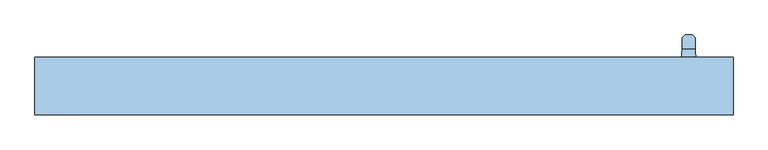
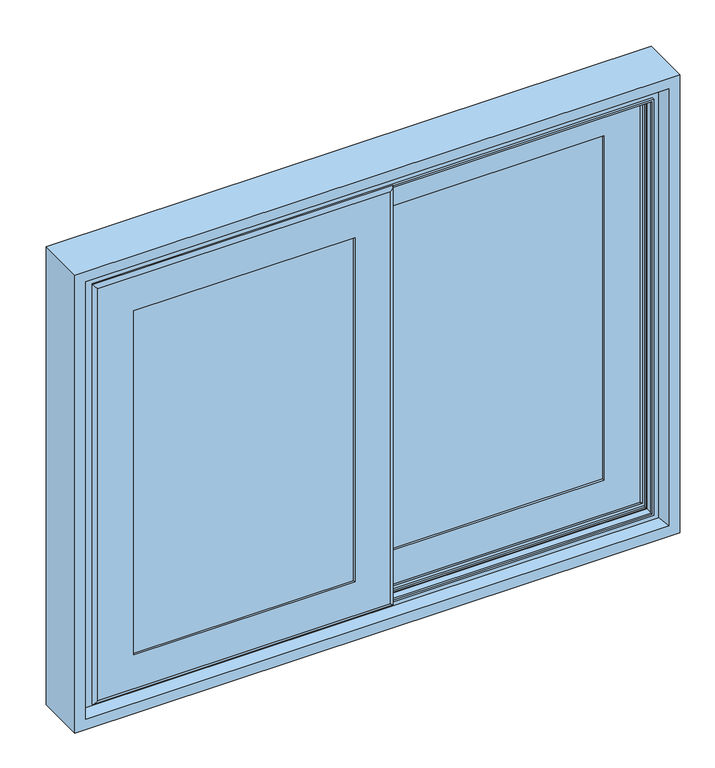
"""IFC4 building model written with IfcOpenShell, lengths in millimetres: window geometry, Windows_Opening-Slide_Exlabesa_ELEVABLE-GR-Balcony-2-Panel-Sliding : ELEVABLE_GR_2000x2000 mm Slide."""

from ifc_helpers import new_model, si_unit, point, frame, frame_2d, origin, place, context, project, spatial, polyline, circle_curve, ellipse_curve, trimmed, segment, composite_curve, outline, extrude, source, transform, mapped, element, save
from ifc_brep_helpers import plane_surface, cylinder_surface, revolved_surface, advanced_brep


def window_30185021(model_context):
    return source(origin(), model_context, "Body", "SolidModel", [
        extrude(outline(composite_curve([segment(polyline([(45.9189448, -432.2626103), (33.4565194, -432.2626103), (33.4565194, -386.2344537), (-52.7425806, -386.2344537)]), True, "CONTINUOUS"), segment(trimmed(circle_curve(frame_2d((147.2565194, -385.6344537)), 200.0), [point((-52.7425806, -386.2344537))], [point((-45.9189448, -333.8344537))], False, "CARTESIAN"), True, "CONTINUOUS"), segment(polyline([(-45.9189448, -333.8344537), (-33.4565194, -333.8344537), (-33.4565194, -379.8626103), (52.7425806, -379.8626103)]), True, "CONTINUOUS"), segment(trimmed(circle_curve(frame_2d((-147.2565194, -380.4626103)), 200.0), [point((52.7425806, -379.8626103))], [point((45.9189448, -432.2626103))], False, "CARTESIAN"), True, "CONTINUOUS")], self_intersect=False)), frame((0.0, 0.0, 60.0), z_axis=(0.0, 0.0, 1.0), x_axis=(1.0, 0.0, 0.0)), (0.0, 0.0, 1.0), 1080.0),
        advanced_brep(
        [(-13.56, -333.798532, 1117.0), (-13.56, -333.798532, 83.0), (-13.56, -341.048532, 83.0), (-13.56, -341.048532, 1117.0), (667.0, -341.048532, 1117.0), (667.0, -341.048532, 83.0), (9.94, -341.048532, 1093.5), (643.5, -341.048532, 1093.5), (643.5, -341.048532, 106.5), (9.94, -341.048532, 106.5), (667.0, -333.798532, 83.0), (699.4076311, -333.798532, 1149.4076311), (-45.9676311, -333.798532, 1149.4076311), (-45.9676311, -333.798532, 50.5923689), (699.4076311, -333.798532, 50.5923689), (667.0, -333.798532, 1117.0), (-36.4282391, -326.798532, 1139.8682391), (689.8682391, -326.798532, 1139.8682391), (689.8682391, -326.798532, 60.1317609), (-36.4282391, -326.798532, 60.1317609), (600.7, -326.798532, 1050.7), (52.74, -326.798532, 1050.7), (52.74, -326.798532, 149.3), (600.7, -326.798532, 149.3), (600.7, -347.798532, 149.3), (600.7, -347.798532, 1050.7), (52.74, -347.798532, 149.3), (52.74, -347.798532, 1050.7), (608.9, -347.798532, 1058.9), (44.54, -347.798532, 1058.9), (44.54, -347.798532, 141.1), (608.9, -347.798532, 141.1), (44.54, -344.798532, 1058.9), (44.54, -344.798532, 141.1), (608.9, -344.798532, 141.1), (622.7, -344.798532, 1072.7), (30.74, -344.798532, 1072.7), (30.74, -344.798532, 127.3), (622.7, -344.798532, 127.3), (608.9, -344.798532, 1058.9), (30.74, -348.898532, 1072.7), (30.74, -348.898532, 127.3), (622.7, -348.898532, 127.3), (627.2, -348.898532, 1077.2), (26.24, -348.898532, 1077.2), (26.24, -348.898532, 122.8), (627.2, -348.898532, 122.8), (622.7, -348.898532, 1072.7), (26.24, -372.298532, 1077.2), (26.24, -372.298532, 122.8), (627.2, -372.298532, 122.8), (627.2, -372.298532, 1077.2), (600.7, -372.298532, 1050.7), (52.74, -372.298532, 1050.7), (52.74, -372.298532, 149.3), (600.7, -372.298532, 149.3), (52.74, -377.298532, 1050.7), (52.74, -377.298532, 149.3), (600.7, -377.298532, 149.3), (689.8682391, -377.298532, 1139.8682391), (-36.4282391, -377.298532, 1139.8682391), (-36.4282391, -377.298532, 60.1317609), (689.8682391, -377.298532, 60.1317609), (600.7, -377.298532, 1050.7), (-45.9676311, -370.298532, 1149.4076311), (-45.9676311, -370.298532, 50.5923689), (699.4076311, -370.298532, 50.5923689), (699.4076311, -370.298532, 1149.4076311), (667.0, -370.298532, 1117.0), (-13.56, -370.298532, 1117.0), (-13.56, -370.298532, 83.0), (667.0, -370.298532, 83.0), (667.0, -363.048532, 83.0), (667.0, -363.048532, 1117.0), (-13.56, -363.048532, 83.0), (-13.56, -363.048532, 1117.0), (643.5, -363.048532, 1093.5), (9.94, -363.048532, 1093.5), (9.94, -363.048532, 106.5), (643.5, -363.048532, 106.5)],
        [
            (0, 1),
            (1, 2),
            (2, 3),
            (3, 0),
            (4, 3),
            (2, 5),
            (5, 4),
            (6, 7),
            (7, 8),
            (8, 9),
            (9, 6),
            (1, 10),
            (10, 5),
            (11, 12),
            (12, 13),
            (13, 14),
            (14, 11),
            (0, 15),
            (15, 10),
            (15, 4),
            (16, 17),
            (17, 18),
            (18, 19),
            (19, 16),
            (20, 21),
            (21, 22),
            (22, 23),
            (23, 20),
            (19, 13, ellipse_curve(frame((-36.4282391, -336.798532, 60.1317609), z_axis=(-0.7071067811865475, 0.0, 0.7071067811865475), x_axis=(0.7071067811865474, 0.0, 0.7071067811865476)), 14.1421356, 10.0)),
            (12, 16, ellipse_curve(frame((-36.4282391, -336.798532, 1139.8682391), z_axis=(-0.7071067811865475, 0.0, -0.7071067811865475), x_axis=(-0.7071067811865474, 0.0, 0.7071067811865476)), 14.1421356, 10.0)),
            (18, 14, ellipse_curve(frame((689.8682391, -336.798532, 60.1317609), z_axis=(-0.7071067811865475, 0.0, -0.7071067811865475), x_axis=(-0.7071067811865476, 0.0, 0.7071067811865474)), 14.1421356, 10.0)),
            (17, 11, ellipse_curve(frame((689.8682391, -336.798532, 1139.8682391), z_axis=(0.7071067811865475, 0.0, -0.7071067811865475), x_axis=(-0.7071067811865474, 0.0, -0.7071067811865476)), 14.1421356, 10.0)),
            (24, 25),
            (25, 20),
            (23, 24),
            (26, 24),
            (22, 26),
            (27, 26),
            (21, 27),
            (28, 29),
            (29, 30),
            (30, 31),
            (31, 28),
            (27, 25),
            (32, 33),
            (33, 30),
            (29, 32),
            (33, 34),
            (34, 31),
            (35, 36),
            (36, 37),
            (37, 38),
            (38, 35),
            (32, 39),
            (39, 34),
            (40, 41),
            (41, 37),
            (36, 40),
            (41, 42),
            (42, 38),
            (43, 44),
            (44, 45),
            (45, 46),
            (46, 43),
            (40, 47),
            (47, 42),
            (48, 49),
            (49, 45),
            (44, 48),
            (49, 50),
            (50, 46),
            (48, 51),
            (51, 50),
            (52, 53),
            (53, 54),
            (54, 55),
            (55, 52),
            (56, 57),
            (57, 54),
            (53, 56),
            (57, 58),
            (58, 55),
            (59, 60),
            (60, 61),
            (61, 62),
            (62, 59),
            (56, 63),
            (63, 58),
            (64, 65),
            (65, 61, ellipse_curve(frame((-36.4282391, -367.298532, 60.1317609), z_axis=(-0.7071067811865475, 0.0, 0.7071067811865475), x_axis=(0.7071067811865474, 0.0, 0.7071067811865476)), 14.1421356, 10.0)),
            (60, 64, ellipse_curve(frame((-36.4282391, -367.298532, 1139.8682391), z_axis=(-0.7071067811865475, 0.0, -0.7071067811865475), x_axis=(-0.7071067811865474, 0.0, 0.7071067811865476)), 14.1421356, 10.0)),
            (65, 66),
            (66, 62, ellipse_curve(frame((689.8682391, -367.298532, 60.1317609), z_axis=(-0.7071067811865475, 0.0, -0.7071067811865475), x_axis=(-0.7071067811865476, 0.0, 0.7071067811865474)), 14.1421356, 10.0)),
            (64, 67),
            (67, 66),
            (68, 69),
            (69, 70),
            (70, 71),
            (71, 68),
            (39, 28),
            (47, 35),
            (51, 43),
            (63, 52),
            (67, 59, ellipse_curve(frame((689.8682391, -367.298532, 1139.8682391), z_axis=(0.7071067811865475, 0.0, -0.7071067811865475), x_axis=(-0.7071067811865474, 0.0, -0.7071067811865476)), 14.1421356, 10.0)),
            (72, 73),
            (73, 68),
            (71, 72),
            (74, 72),
            (70, 74),
            (75, 74),
            (69, 75),
            (75, 73),
            (76, 77),
            (77, 78),
            (78, 79),
            (79, 76),
            (9, 78),
            (77, 6),
            (8, 79),
            (7, 76),
        ],
        [
            plane_surface(frame((-13.56, -341.048532, 1117.0), z_axis=(-1.0, 0.0, 0.0), x_axis=(0.0, 0.0, -1.0))),
            plane_surface(frame((643.5, -341.048532, 106.5), z_axis=(0.0, -1.0, 0.0), x_axis=(0.0, 0.0, 1.0))),
            plane_surface(frame((-13.56, -341.048532, 83.0), z_axis=(0.0, 0.0, -1.0), x_axis=(1.0, 0.0, 0.0))),
            plane_surface(frame((667.0, -333.798532, 83.0), z_axis=(0.0, -1.0, 0.0), x_axis=(0.0, 0.0, 1.0))),
            plane_surface(frame((667.0, -341.048532, 83.0), z_axis=(1.0, 0.0, 0.0), x_axis=(0.0, 0.0, 1.0))),
            plane_surface(frame((689.8682391, -326.798532, 60.1317609), z_axis=(0.0, 1.0, 0.0), x_axis=(0.0, 0.0, 1.0))),
            cylinder_surface(frame((-36.4282391, -336.798532, 1200.0), z_axis=(0.0, 0.0, 1.0), x_axis=(1.0, 0.0, 0.0)), 10.0),
            cylinder_surface(frame((-96.56, -336.798532, 60.1317609), z_axis=(-1.0, 0.0, 0.0), x_axis=(0.0, 0.0, 1.0)), 10.0),
            cylinder_surface(frame((689.8682391, -336.798532, 0.0), z_axis=(0.0, 0.0, -1.0), x_axis=(-1.0, 0.0, 0.0)), 10.0),
            plane_surface(frame((600.7, -326.798532, 149.3), z_axis=(-1.0, 0.0, 0.0), x_axis=(0.0, 0.0, 1.0))),
            plane_surface(frame((52.74, -326.798532, 149.3), z_axis=(0.0, 0.0, 1.0), x_axis=(1.0, 0.0, 0.0))),
            plane_surface(frame((52.74, -326.798532, 1050.7), z_axis=(1.0, 0.0, 0.0), x_axis=(0.0, 0.0, -1.0))),
            plane_surface(frame((600.7, -347.798532, 149.3), z_axis=(0.0, -1.0, 0.0), x_axis=(0.0, 0.0, 1.0))),
            plane_surface(frame((44.54, -347.798532, 1058.9), z_axis=(-1.0, 0.0, 0.0), x_axis=(0.0, 0.0, -1.0))),
            plane_surface(frame((44.54, -347.798532, 141.1), z_axis=(0.0, 0.0, -1.0), x_axis=(1.0, 0.0, 0.0))),
            plane_surface(frame((608.9, -344.798532, 141.1), z_axis=(0.0, -1.0, 0.0), x_axis=(0.0, 0.0, 1.0))),
            plane_surface(frame((30.74, -344.798532, 1072.7), z_axis=(1.0, 0.0, 0.0), x_axis=(0.0, 0.0, -1.0))),
            plane_surface(frame((30.74, -344.798532, 127.3), z_axis=(0.0, 0.0, 1.0), x_axis=(1.0, 0.0, 0.0))),
            plane_surface(frame((622.7, -348.898532, 127.3), z_axis=(0.0, -1.0, 0.0), x_axis=(0.0, 0.0, 1.0))),
            plane_surface(frame((26.24, -348.898532, 1077.2), z_axis=(1.0, 0.0, 0.0), x_axis=(0.0, 0.0, -1.0))),
            plane_surface(frame((26.24, -348.898532, 122.8), z_axis=(0.0, 0.0, 1.0), x_axis=(1.0, 0.0, 0.0))),
            plane_surface(frame((627.2, -372.298532, 122.8), z_axis=(0.0, 1.0, 0.0), x_axis=(0.0, 0.0, 1.0))),
            plane_surface(frame((52.74, -372.298532, 1050.7), z_axis=(1.0, 0.0, 0.0), x_axis=(0.0, 0.0, -1.0))),
            plane_surface(frame((52.74, -372.298532, 149.3), z_axis=(0.0, 0.0, 1.0), x_axis=(1.0, 0.0, 0.0))),
            plane_surface(frame((600.7, -377.298532, 149.3), z_axis=(0.0, -1.0, 0.0), x_axis=(0.0, 0.0, 1.0))),
            cylinder_surface(frame((-36.4282391, -367.298532, 1200.0), z_axis=(0.0, 0.0, 1.0), x_axis=(1.0, 0.0, 0.0)), 10.0),
            cylinder_surface(frame((-96.56, -367.298532, 60.1317609), z_axis=(-1.0, 0.0, 0.0), x_axis=(0.0, 0.0, 1.0)), 10.0),
            plane_surface(frame((699.4076311, -370.298532, 50.5923689), z_axis=(0.0, 1.0, 0.0), x_axis=(0.0, 0.0, 1.0))),
            plane_surface(frame((608.9, -347.798532, 141.1), z_axis=(1.0, 0.0, 0.0), x_axis=(0.0, 0.0, 1.0))),
            plane_surface(frame((622.7, -344.798532, 127.3), z_axis=(-1.0, 0.0, 0.0), x_axis=(0.0, 0.0, 1.0))),
            plane_surface(frame((627.2, -348.898532, 122.8), z_axis=(-1.0, 0.0, 0.0), x_axis=(0.0, 0.0, 1.0))),
            plane_surface(frame((600.7, -372.298532, 149.3), z_axis=(-1.0, 0.0, 0.0), x_axis=(0.0, 0.0, 1.0))),
            cylinder_surface(frame((689.8682391, -367.298532, 0.0), z_axis=(0.0, 0.0, -1.0), x_axis=(-1.0, 0.0, 0.0)), 10.0),
            plane_surface(frame((667.0, -370.298532, 83.0), z_axis=(1.0, 0.0, 0.0), x_axis=(0.0, 0.0, 1.0))),
            plane_surface(frame((-13.56, -370.298532, 83.0), z_axis=(0.0, 0.0, -1.0), x_axis=(1.0, 0.0, 0.0))),
            plane_surface(frame((-13.56, -370.298532, 1117.0), z_axis=(-1.0, 0.0, 0.0), x_axis=(0.0, 0.0, -1.0))),
            plane_surface(frame((667.0, -363.048532, 83.0), z_axis=(0.0, 1.0, 0.0), x_axis=(0.0, 0.0, 1.0))),
            plane_surface(frame((9.94, -363.048532, 1093.5), z_axis=(-1.0, 0.0, 0.0), x_axis=(0.0, 0.0, -1.0))),
            plane_surface(frame((9.94, -363.048532, 106.5), z_axis=(0.0, 0.0, -1.0), x_axis=(1.0, 0.0, 0.0))),
            plane_surface(frame((643.5, -363.048532, 106.5), z_axis=(1.0, 0.0, 0.0), x_axis=(0.0, 0.0, 1.0))),
            plane_surface(frame((667.0, -341.048532, 1117.0), z_axis=(0.0, 0.0, 1.0), x_axis=(-1.0, 0.0, 0.0))),
            plane_surface(frame((600.7, -326.798532, 1050.7), z_axis=(0.0, 0.0, -1.0), x_axis=(-1.0, 0.0, 0.0))),
            plane_surface(frame((608.9, -347.798532, 1058.9), z_axis=(0.0, 0.0, 1.0), x_axis=(-1.0, 0.0, 0.0))),
            plane_surface(frame((622.7, -344.798532, 1072.7), z_axis=(0.0, 0.0, -1.0), x_axis=(-1.0, 0.0, 0.0))),
            plane_surface(frame((627.2, -348.898532, 1077.2), z_axis=(0.0, 0.0, -1.0), x_axis=(-1.0, 0.0, 0.0))),
            plane_surface(frame((600.7, -372.298532, 1050.7), z_axis=(0.0, 0.0, -1.0), x_axis=(-1.0, 0.0, 0.0))),
            cylinder_surface(frame((750.0, -367.298532, 1139.8682391), z_axis=(1.0, 0.0, 0.0), x_axis=(0.0, 0.0, -1.0)), 10.0),
            cylinder_surface(frame((750.0, -336.798532, 1139.8682391), z_axis=(1.0, 0.0, 0.0), x_axis=(0.0, 0.0, -1.0)), 10.0),
            plane_surface(frame((667.0, -370.298532, 1117.0), z_axis=(0.0, 0.0, 1.0), x_axis=(-1.0, 0.0, 0.0))),
            plane_surface(frame((643.5, -363.048532, 1093.5), z_axis=(0.0, 0.0, 1.0), x_axis=(-1.0, 0.0, 0.0))),
        ],
        [
            (0, [[1, 2, 3, 4]]),
            (1, [[5, -3, 6, 7], [8, 9, 10, 11]]),
            (2, [[12, 13, -6, -2]]),
            (3, [[14, 15, 16, 17], [18, 19, -12, -1]]),
            (4, [[-19, 20, -7, -13]]),
            (5, [[21, 22, 23, 24], [25, 26, 27, 28]]),
            (6, [[-24, 29, -15, 30]]),
            (7, [[-23, 31, -16, -29]]),
            (8, [[-22, 32, -17, -31]]),
            (9, [[33, 34, -28, 35]]),
            (10, [[36, -35, -27, 37]]),
            (11, [[38, -37, -26, 39]]),
            (12, [[40, 41, 42, 43], [44, -33, -36, -38]]),
            (13, [[45, 46, -41, 47]]),
            (14, [[48, 49, -42, -46]]),
            (15, [[50, 51, 52, 53], [54, 55, -48, -45]]),
            (16, [[56, 57, -51, 58]]),
            (17, [[59, 60, -52, -57]]),
            (18, [[61, 62, 63, 64], [65, 66, -59, -56]]),
            (19, [[67, 68, -62, 69]]),
            (20, [[70, 71, -63, -68]]),
            (21, [[72, 73, -70, -67], [74, 75, 76, 77]]),
            (22, [[78, 79, -75, 80]]),
            (23, [[81, 82, -76, -79]]),
            (24, [[83, 84, 85, 86], [87, 88, -81, -78]]),
            (25, [[89, 90, -84, 91]]),
            (26, [[92, 93, -85, -90]]),
            (27, [[94, 95, -92, -89], [96, 97, 98, 99]]),
            (28, [[-55, 100, -43, -49]]),
            (29, [[-66, 101, -53, -60]]),
            (30, [[-73, 102, -64, -71]]),
            (31, [[-88, 103, -77, -82]]),
            (32, [[-95, 104, -86, -93]]),
            (33, [[105, 106, -99, 107]]),
            (34, [[108, -107, -98, 109]]),
            (35, [[110, -109, -97, 111]]),
            (36, [[112, -105, -108, -110], [113, 114, 115, 116]]),
            (37, [[-11, 117, -114, 118]]),
            (38, [[-10, 119, -115, -117]]),
            (39, [[-9, 120, -116, -119]]),
            (40, [[-18, -4, -5, -20]]),
            (41, [[-44, -39, -25, -34]]),
            (42, [[-54, -47, -40, -100]]),
            (43, [[-65, -58, -50, -101]]),
            (44, [[-72, -69, -61, -102]]),
            (45, [[-87, -80, -74, -103]]),
            (46, [[-94, -91, -83, -104]]),
            (47, [[-21, -30, -14, -32]]),
            (48, [[-112, -111, -96, -106]]),
            (49, [[-8, -118, -113, -120]]),
        ],
    ),
        advanced_brep(
        [(-750.0, -321.548532, 1200.0), (-750.0, -321.548532, 0.0), (-750.0, -444.548532, 0.0), (-750.0, -444.548532, 1200.0), (750.0, -444.548532, 1200.0), (750.0, -444.548532, 0.0), (-722.7679492, -444.548532, 1172.7679492), (722.7679492, -444.548532, 1172.7679492), (722.7679492, -444.548532, 27.2320508), (-722.7679492, -444.548532, 27.2320508), (750.0, -321.548532, 0.0), (750.0, -321.548532, 1200.0), (692.0, -321.548532, 1142.0), (-692.0, -321.548532, 1142.0), (-692.0, -321.548532, 58.0), (692.0, -321.548532, 58.0), (-710.2971834, -422.948532, 39.7028166), (-710.2971834, -422.948532, 1160.2971834), (710.2971834, -422.948532, 39.7028166), (710.2971834, -422.948532, 1160.2971834), (-692.0, -323.348532, 1142.0), (-692.0, -323.348532, 58.0), (692.0, -323.348532, 58.0), (718.0, -323.348532, 1168.0), (-718.0, -323.348532, 1168.0), (-718.0, -323.348532, 32.0), (718.0, -323.348532, 32.0), (692.0, -323.348532, 1142.0), (-719.7320508, -326.348532, 1169.7320508), (-719.7320508, -326.348532, 30.2679492), (719.7320508, -326.348532, 30.2679492), (-710.0325663, -343.148532, 1160.0325663), (-710.0325663, -343.148532, 39.9674337), (710.0325663, -343.148532, 39.9674337), (710.0325663, -343.148532, 1160.0325663), (695.0, -343.148532, 1145.0), (-695.0, -343.148532, 1145.0), (-695.0, -343.148532, 55.0), (695.0, -343.148532, 55.0), (-695.0, -336.798532, 1145.0), (-695.0, -336.798532, 55.0), (695.0, -336.798532, 55.0), (695.0, -336.798532, 1145.0), (690.0, -336.798532, 1140.0), (-690.0, -336.798532, 1140.0), (-690.0, -336.798532, 60.0), (690.0, -336.798532, 60.0), (-690.0, -341.748532, 1140.0), (-690.0, -341.748532, 60.0), (690.0, -341.748532, 60.0), (692.0, -341.748532, 1142.0), (-692.0, -341.748532, 1142.0), (-692.0, -341.748532, 58.0), (692.0, -341.748532, 58.0), (690.0, -341.748532, 1140.0), (-692.0, -362.348532, 1142.0), (-692.0, -362.348532, 58.0), (692.0, -362.348532, 58.0), (692.0, -362.348532, 1142.0), (690.0, -362.348532, 1140.0), (-690.0, -362.348532, 1140.0), (-690.0, -362.348532, 60.0), (690.0, -362.348532, 60.0), (-690.0, -367.298532, 1140.0), (-690.0, -367.298532, 60.0), (690.0, -367.298532, 60.0), (695.0, -367.298532, 1145.0), (-695.0, -367.298532, 1145.0), (-695.0, -367.298532, 55.0), (695.0, -367.298532, 55.0), (690.0, -367.298532, 1140.0), (-695.0, -362.748532, 1145.0), (-695.0, -362.748532, 55.0), (695.0, -362.748532, 55.0), (714.5240287, -362.748532, 1164.5240287), (-714.5240287, -362.748532, 1164.5240287), (-714.5240287, -362.748532, 35.4759713), (714.5240287, -362.748532, 35.4759713), (695.0, -362.748532, 1145.0), (-715.2327287, -403.348532, 1165.2327287), (-715.2327287, -403.348532, 34.7672713), (715.2327287, -403.348532, 34.7672713), (715.2327287, -403.348532, 1165.2327287), (695.0, -403.348532, 1145.0), (-695.0, -403.348532, 1145.0), (-695.0, -403.348532, 55.0), (695.0, -403.348532, 55.0), (-695.0, -398.798532, 1145.0), (-695.0, -398.798532, 55.0), (695.0, -398.798532, 55.0), (695.0, -398.798532, 1145.0), (690.0, -398.798532, 1140.0), (-690.0, -398.798532, 1140.0), (-690.0, -398.798532, 60.0), (690.0, -398.798532, 60.0), (-690.0, -403.748532, 1140.0), (-690.0, -403.748532, 60.0), (690.0, -403.748532, 60.0), (692.0, -403.748532, 1142.0), (-692.0, -403.748532, 1142.0), (-692.0, -403.748532, 58.0), (692.0, -403.748532, 58.0), (690.0, -403.748532, 1140.0), (-692.0, -424.348532, 1142.0), (-692.0, -424.348532, 58.0), (692.0, -424.348532, 58.0), (692.0, -424.348532, 1142.0), (690.0, -424.348532, 1140.0), (-690.0, -424.348532, 1140.0), (-690.0, -424.348532, 60.0), (690.0, -424.348532, 60.0), (-690.0, -429.298532, 1140.0), (-690.0, -429.298532, 60.0), (690.0, -429.298532, 60.0), (695.0, -429.298532, 1145.0), (-695.0, -429.298532, 1145.0), (-695.0, -429.298532, 55.0), (695.0, -429.298532, 55.0), (690.0, -429.298532, 1140.0), (-695.0, -422.948532, 1145.0), (-695.0, -422.948532, 55.0), (695.0, -422.948532, 55.0), (695.0, -422.948532, 1145.0), (719.7320508, -326.348532, 1169.7320508)],
        [
            (0, 1),
            (1, 2),
            (2, 3),
            (3, 0),
            (4, 3),
            (2, 5),
            (5, 4),
            (6, 7),
            (7, 8),
            (8, 9),
            (9, 6),
            (1, 10),
            (10, 5),
            (0, 11),
            (11, 10),
            (12, 13),
            (13, 14),
            (14, 15),
            (15, 12),
            (11, 4),
            (9, 16),
            (16, 17),
            (17, 6),
            (8, 18),
            (18, 16),
            (7, 19),
            (19, 18),
            (20, 21),
            (21, 14),
            (13, 20),
            (21, 22),
            (22, 15),
            (23, 24),
            (24, 25),
            (25, 26),
            (26, 23),
            (20, 27),
            (27, 22),
            (28, 29),
            (29, 25, ellipse_curve(frame((-718.0, -325.348532, 32.0), z_axis=(0.7071067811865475, 0.0, -0.7071067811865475), x_axis=(-0.7071067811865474, 0.0, -0.7071067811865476)), 2.8284271, 2.0)),
            (24, 28, ellipse_curve(frame((-718.0, -325.348532, 1168.0), z_axis=(0.7071067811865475, 0.0, 0.7071067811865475), x_axis=(0.7071067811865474, 0.0, -0.7071067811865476)), 2.8284271, 2.0)),
            (29, 30),
            (30, 26, ellipse_curve(frame((718.0, -325.348532, 32.0), z_axis=(0.7071067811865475, 0.0, 0.7071067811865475), x_axis=(0.7071067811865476, 0.0, -0.7071067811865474)), 2.8284271, 2.0)),
            (31, 32),
            (32, 29),
            (28, 31),
            (32, 33),
            (33, 30),
            (31, 34),
            (34, 33),
            (35, 36),
            (36, 37),
            (37, 38),
            (38, 35),
            (39, 40),
            (40, 37),
            (36, 39),
            (40, 41),
            (41, 38),
            (39, 42),
            (42, 41),
            (43, 44),
            (44, 45),
            (45, 46),
            (46, 43),
            (47, 48),
            (48, 45),
            (44, 47),
            (48, 49),
            (49, 46),
            (50, 51),
            (51, 52),
            (52, 53),
            (53, 50),
            (47, 54),
            (54, 49),
            (55, 56),
            (56, 52),
            (51, 55),
            (56, 57),
            (57, 53),
            (55, 58),
            (58, 57),
            (59, 60),
            (60, 61),
            (61, 62),
            (62, 59),
            (63, 64),
            (64, 61),
            (60, 63),
            (64, 65),
            (65, 62),
            (66, 67),
            (67, 68),
            (68, 69),
            (69, 66),
            (63, 70),
            (70, 65),
            (71, 72),
            (72, 68),
            (67, 71),
            (72, 73),
            (73, 69),
            (74, 75),
            (75, 76),
            (76, 77),
            (77, 74),
            (71, 78),
            (78, 73),
            (79, 80),
            (80, 76),
            (75, 79),
            (80, 81),
            (81, 77),
            (79, 82),
            (82, 81),
            (83, 84),
            (84, 85),
            (85, 86),
            (86, 83),
            (87, 88),
            (88, 85),
            (84, 87),
            (88, 89),
            (89, 86),
            (87, 90),
            (90, 89),
            (91, 92),
            (92, 93),
            (93, 94),
            (94, 91),
            (95, 96),
            (96, 93),
            (92, 95),
            (96, 97),
            (97, 94),
            (98, 99),
            (99, 100),
            (100, 101),
            (101, 98),
            (95, 102),
            (102, 97),
            (103, 104),
            (104, 100),
            (99, 103),
            (104, 105),
            (105, 101),
            (103, 106),
            (106, 105),
            (107, 108),
            (108, 109),
            (109, 110),
            (110, 107),
            (111, 112),
            (112, 109),
            (108, 111),
            (112, 113),
            (113, 110),
            (114, 115),
            (115, 116),
            (116, 117),
            (117, 114),
            (111, 118),
            (118, 113),
            (119, 120),
            (120, 116),
            (115, 119),
            (120, 121),
            (121, 117),
            (19, 17),
            (119, 122),
            (122, 121),
            (27, 12),
            (30, 123),
            (123, 23, ellipse_curve(frame((718.0, -325.348532, 1168.0), z_axis=(-0.7071067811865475, 0.0, 0.7071067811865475), x_axis=(0.7071067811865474, 0.0, 0.7071067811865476)), 2.8284271, 2.0)),
            (34, 123),
            (42, 35),
            (54, 43),
            (58, 50),
            (70, 59),
            (78, 66),
            (82, 74),
            (90, 83),
            (102, 91),
            (106, 98),
            (118, 107),
            (122, 114),
            (123, 28),
        ],
        [
            plane_surface(frame((-750.0, -444.548532, 1200.0), z_axis=(-1.0, 0.0, 0.0), x_axis=(0.0, 0.0, -1.0))),
            plane_surface(frame((722.7679492, -444.548532, 27.2320508), z_axis=(0.0, -1.0, 0.0), x_axis=(0.0, 0.0, 1.0))),
            plane_surface(frame((-750.0, -444.548532, 0.0), z_axis=(0.0, 0.0, -1.0), x_axis=(1.0, 0.0, 0.0))),
            plane_surface(frame((750.0, -321.548532, 0.0), z_axis=(0.0, 1.0, 0.0), x_axis=(0.0, 0.0, 1.0))),
            plane_surface(frame((750.0, -444.548532, 0.0), z_axis=(1.0, 0.0, 0.0), x_axis=(0.0, 0.0, 1.0))),
            plane_surface(frame((-710.2971834, -422.948532, 1160.2971834), z_axis=(0.8660254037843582, -0.5000000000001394, 0.0), x_axis=(0.0, 0.0, -1.0))),
            plane_surface(frame((-710.2971834, -422.948532, 39.7028166), z_axis=(0.0, -0.5000000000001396, 0.8660254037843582), x_axis=(1.0, 0.0, 0.0))),
            plane_surface(frame((710.2971834, -422.948532, 39.7028166), z_axis=(-0.8660254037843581, -0.5000000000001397, 0.0), x_axis=(0.0, 0.0, 1.0))),
            plane_surface(frame((-692.0, -321.548532, 1142.0), z_axis=(1.0, 0.0, 0.0), x_axis=(0.0, 0.0, -1.0))),
            plane_surface(frame((-692.0, -321.548532, 58.0), z_axis=(0.0, 0.0, 1.0), x_axis=(1.0, 0.0, 0.0))),
            plane_surface(frame((692.0, -323.348532, 58.0), z_axis=(0.0, -1.0, 0.0), x_axis=(0.0, 0.0, 1.0))),
            revolved_surface(polyline([(-716.0, -325.348532, 30.000000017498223), (-716.0, -325.348532, 1169.9999999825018)]), (-718.0, -325.348532, 1200.0), (0.0, 0.0, -1.0)),
            revolved_surface(polyline([(719.9999999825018, -325.348532, 34.0), (-719.9999999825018, -325.348532, 34.0)]), (-750.0, -325.348532, 32.0), (1.0, 0.0, 0.0)),
            plane_surface(frame((-719.7320508, -326.348532, 1169.7320508), z_axis=(0.8660254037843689, 0.500000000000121, 0.0), x_axis=(0.0, 0.0, -1.0))),
            plane_surface(frame((-719.7320508, -326.348532, 30.2679492), z_axis=(0.0, 0.5000000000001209, 0.8660254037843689), x_axis=(1.0, 0.0, 0.0))),
            plane_surface(frame((710.0325663, -343.148532, 39.9674337), z_axis=(0.0, 1.0, 0.0), x_axis=(0.0, 0.0, 1.0))),
            plane_surface(frame((-695.0, -343.148532, 1145.0), z_axis=(-1.0, 0.0, 0.0), x_axis=(0.0, 0.0, -1.0))),
            plane_surface(frame((-695.0, -343.148532, 55.0), z_axis=(0.0, 0.0, -1.0), x_axis=(1.0, 0.0, 0.0))),
            plane_surface(frame((695.0, -336.798532, 55.0), z_axis=(0.0, 1.0, 0.0), x_axis=(0.0, 0.0, 1.0))),
            plane_surface(frame((-690.0, -336.798532, 1140.0), z_axis=(1.0, 0.0, 0.0), x_axis=(0.0, 0.0, -1.0))),
            plane_surface(frame((-690.0, -336.798532, 60.0), z_axis=(0.0, 0.0, 1.0), x_axis=(1.0, 0.0, 0.0))),
            plane_surface(frame((690.0, -341.748532, 60.0), z_axis=(0.0, -1.0, 0.0), x_axis=(0.0, 0.0, 1.0))),
            plane_surface(frame((-692.0, -341.748532, 1142.0), z_axis=(1.0, 0.0, 0.0), x_axis=(0.0, 0.0, -1.0))),
            plane_surface(frame((-692.0, -341.748532, 58.0), z_axis=(0.0, 0.0, 1.0), x_axis=(1.0, 0.0, 0.0))),
            plane_surface(frame((692.0, -362.348532, 58.0), z_axis=(0.0, 1.0, 0.0), x_axis=(0.0, 0.0, 1.0))),
            plane_surface(frame((-690.0, -362.348532, 1140.0), z_axis=(1.0, 0.0, 0.0), x_axis=(0.0, 0.0, -1.0))),
            plane_surface(frame((-690.0, -362.348532, 60.0), z_axis=(0.0, 0.0, 1.0), x_axis=(1.0, 0.0, 0.0))),
            plane_surface(frame((690.0, -367.298532, 60.0), z_axis=(0.0, -1.0, 0.0), x_axis=(0.0, 0.0, 1.0))),
            plane_surface(frame((-695.0, -367.298532, 1145.0), z_axis=(-1.0, 0.0, 0.0), x_axis=(0.0, 0.0, -1.0))),
            plane_surface(frame((-695.0, -367.298532, 55.0), z_axis=(0.0, 0.0, -1.0), x_axis=(1.0, 0.0, 0.0))),
            plane_surface(frame((695.0, -362.748532, 55.0), z_axis=(0.0, -1.0, 0.0), x_axis=(0.0, 0.0, 1.0))),
            plane_surface(frame((-714.5240287, -362.748532, 1164.5240287), z_axis=(0.999847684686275, -0.01745300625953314, 0.0), x_axis=(0.0, 0.0, -1.0))),
            plane_surface(frame((-714.5240287, -362.748532, 35.4759713), z_axis=(0.0, -0.017453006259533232, 0.999847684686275), x_axis=(1.0, 0.0, 0.0))),
            plane_surface(frame((715.2327287, -403.348532, 34.7672713), z_axis=(0.0, 1.0, 0.0), x_axis=(0.0, 0.0, 1.0))),
            plane_surface(frame((-695.0, -403.348532, 1145.0), z_axis=(-1.0, 0.0, 0.0), x_axis=(0.0, 0.0, -1.0))),
            plane_surface(frame((-695.0, -403.348532, 55.0), z_axis=(0.0, 0.0, -1.0), x_axis=(1.0, 0.0, 0.0))),
            plane_surface(frame((695.0, -398.798532, 55.0), z_axis=(0.0, 1.0, 0.0), x_axis=(0.0, 0.0, 1.0))),
            plane_surface(frame((-690.0, -398.798532, 1140.0), z_axis=(1.0, 0.0, 0.0), x_axis=(0.0, 0.0, -1.0))),
            plane_surface(frame((-690.0, -398.798532, 60.0), z_axis=(0.0, 0.0, 1.0), x_axis=(1.0, 0.0, 0.0))),
            plane_surface(frame((690.0, -403.748532, 60.0), z_axis=(0.0, -1.0, 0.0), x_axis=(0.0, 0.0, 1.0))),
            plane_surface(frame((-692.0, -403.748532, 1142.0), z_axis=(1.0, 0.0, 0.0), x_axis=(0.0, 0.0, -1.0))),
            plane_surface(frame((-692.0, -403.748532, 58.0), z_axis=(0.0, 0.0, 1.0), x_axis=(1.0, 0.0, 0.0))),
            plane_surface(frame((692.0, -424.348532, 58.0), z_axis=(0.0, 1.0, 0.0), x_axis=(0.0, 0.0, 1.0))),
            plane_surface(frame((-690.0, -424.348532, 1140.0), z_axis=(1.0, 0.0, 0.0), x_axis=(0.0, 0.0, -1.0))),
            plane_surface(frame((-690.0, -424.348532, 60.0), z_axis=(0.0, 0.0, 1.0), x_axis=(1.0, 0.0, 0.0))),
            plane_surface(frame((690.0, -429.298532, 60.0), z_axis=(0.0, -1.0, 0.0), x_axis=(0.0, 0.0, 1.0))),
            plane_surface(frame((-695.0, -429.298532, 1145.0), z_axis=(-1.0, 0.0, 0.0), x_axis=(0.0, 0.0, -1.0))),
            plane_surface(frame((-695.0, -429.298532, 55.0), z_axis=(0.0, 0.0, -1.0), x_axis=(1.0, 0.0, 0.0))),
            plane_surface(frame((695.0, -422.948532, 55.0), z_axis=(0.0, -1.0, 0.0), x_axis=(0.0, 0.0, 1.0))),
            plane_surface(frame((692.0, -321.548532, 58.0), z_axis=(-1.0, 0.0, 0.0), x_axis=(0.0, 0.0, 1.0))),
            revolved_surface(polyline([(716.0, -325.348532, 1169.9999999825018), (716.0, -325.348532, 30.0000000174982)]), (718.0, -325.348532, 0.0), (0.0, 0.0, 1.0)),
            plane_surface(frame((719.7320508, -326.348532, 30.2679492), z_axis=(-0.866025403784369, 0.5000000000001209, 0.0), x_axis=(0.0, 0.0, 1.0))),
            plane_surface(frame((695.0, -343.148532, 55.0), z_axis=(1.0, 0.0, 0.0), x_axis=(0.0, 0.0, 1.0))),
            plane_surface(frame((690.0, -336.798532, 60.0), z_axis=(-1.0, 0.0, 0.0), x_axis=(0.0, 0.0, 1.0))),
            plane_surface(frame((692.0, -341.748532, 58.0), z_axis=(-1.0, 0.0, 0.0), x_axis=(0.0, 0.0, 1.0))),
            plane_surface(frame((690.0, -362.348532, 60.0), z_axis=(-1.0, 0.0, 0.0), x_axis=(0.0, 0.0, 1.0))),
            plane_surface(frame((695.0, -367.298532, 55.0), z_axis=(1.0, 0.0, 0.0), x_axis=(0.0, 0.0, 1.0))),
            plane_surface(frame((714.5240287, -362.748532, 35.4759713), z_axis=(-0.999847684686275, -0.017453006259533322, 0.0), x_axis=(0.0, 0.0, 1.0))),
            plane_surface(frame((695.0, -403.348532, 55.0), z_axis=(1.0, 0.0, 0.0), x_axis=(0.0, 0.0, 1.0))),
            plane_surface(frame((690.0, -398.798532, 60.0), z_axis=(-1.0, 0.0, 0.0), x_axis=(0.0, 0.0, 1.0))),
            plane_surface(frame((692.0, -403.748532, 58.0), z_axis=(-1.0, 0.0, 0.0), x_axis=(0.0, 0.0, 1.0))),
            plane_surface(frame((690.0, -424.348532, 60.0), z_axis=(-1.0, 0.0, 0.0), x_axis=(0.0, 0.0, 1.0))),
            plane_surface(frame((695.0, -429.298532, 55.0), z_axis=(1.0, 0.0, 0.0), x_axis=(0.0, 0.0, 1.0))),
            plane_surface(frame((750.0, -444.548532, 1200.0), z_axis=(0.0, 0.0, 1.0), x_axis=(-1.0, 0.0, 0.0))),
            plane_surface(frame((692.0, -321.548532, 1142.0), z_axis=(0.0, 0.0, -1.0), x_axis=(-1.0, 0.0, 0.0))),
            revolved_surface(polyline([(-719.9999999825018, -325.348532, 1166.0), (719.9999999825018, -325.348532, 1166.0)]), (750.0, -325.348532, 1168.0), (-1.0, 0.0, 0.0)),
            plane_surface(frame((719.7320508, -326.348532, 1169.7320508), z_axis=(0.0, 0.5000000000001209, -0.8660254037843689), x_axis=(-1.0, 0.0, 0.0))),
            plane_surface(frame((695.0, -343.148532, 1145.0), z_axis=(0.0, 0.0, 1.0), x_axis=(-1.0, 0.0, 0.0))),
            plane_surface(frame((690.0, -336.798532, 1140.0), z_axis=(0.0, 0.0, -1.0), x_axis=(-1.0, 0.0, 0.0))),
            plane_surface(frame((692.0, -341.748532, 1142.0), z_axis=(0.0, 0.0, -1.0), x_axis=(-1.0, 0.0, 0.0))),
            plane_surface(frame((690.0, -362.348532, 1140.0), z_axis=(0.0, 0.0, -1.0), x_axis=(-1.0, 0.0, 0.0))),
            plane_surface(frame((695.0, -367.298532, 1145.0), z_axis=(0.0, 0.0, 1.0), x_axis=(-1.0, 0.0, 0.0))),
            plane_surface(frame((714.5240287, -362.748532, 1164.5240287), z_axis=(0.0, -0.017453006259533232, -0.999847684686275), x_axis=(-1.0, 0.0, 0.0))),
            plane_surface(frame((695.0, -403.348532, 1145.0), z_axis=(0.0, 0.0, 1.0), x_axis=(-1.0, 0.0, 0.0))),
            plane_surface(frame((690.0, -398.798532, 1140.0), z_axis=(0.0, 0.0, -1.0), x_axis=(-1.0, 0.0, 0.0))),
            plane_surface(frame((692.0, -403.748532, 1142.0), z_axis=(0.0, 0.0, -1.0), x_axis=(-1.0, 0.0, 0.0))),
            plane_surface(frame((690.0, -424.348532, 1140.0), z_axis=(0.0, 0.0, -1.0), x_axis=(-1.0, 0.0, 0.0))),
            plane_surface(frame((695.0, -429.298532, 1145.0), z_axis=(0.0, 0.0, 1.0), x_axis=(-1.0, 0.0, 0.0))),
            plane_surface(frame((710.2971834, -422.948532, 1160.2971834), z_axis=(0.0, -0.5000000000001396, -0.8660254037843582), x_axis=(-1.0, 0.0, 0.0))),
        ],
        [
            (0, [[1, 2, 3, 4]]),
            (1, [[5, -3, 6, 7], [8, 9, 10, 11]]),
            (2, [[12, 13, -6, -2]]),
            (3, [[14, 15, -12, -1], [16, 17, 18, 19]]),
            (4, [[-15, 20, -7, -13]]),
            (5, [[-11, 21, 22, 23]]),
            (6, [[-10, 24, 25, -21]]),
            (7, [[-9, 26, 27, -24]]),
            (8, [[28, 29, -17, 30]]),
            (9, [[31, 32, -18, -29]]),
            (10, [[33, 34, 35, 36], [37, 38, -31, -28]]),
            (11, [[39, 40, -34, 41]]),
            (12, [[42, 43, -35, -40]]),
            (13, [[44, 45, -39, 46]]),
            (14, [[47, 48, -42, -45]]),
            (15, [[49, 50, -47, -44], [51, 52, 53, 54]]),
            (16, [[55, 56, -52, 57]]),
            (17, [[58, 59, -53, -56]]),
            (18, [[60, 61, -58, -55], [62, 63, 64, 65]]),
            (19, [[66, 67, -63, 68]]),
            (20, [[69, 70, -64, -67]]),
            (21, [[71, 72, 73, 74], [75, 76, -69, -66]]),
            (22, [[77, 78, -72, 79]]),
            (23, [[80, 81, -73, -78]]),
            (24, [[82, 83, -80, -77], [84, 85, 86, 87]]),
            (25, [[88, 89, -85, 90]]),
            (26, [[91, 92, -86, -89]]),
            (27, [[93, 94, 95, 96], [97, 98, -91, -88]]),
            (28, [[99, 100, -94, 101]]),
            (29, [[102, 103, -95, -100]]),
            (30, [[104, 105, 106, 107], [108, 109, -102, -99]]),
            (31, [[110, 111, -105, 112]]),
            (32, [[113, 114, -106, -111]]),
            (33, [[115, 116, -113, -110], [117, 118, 119, 120]]),
            (34, [[121, 122, -118, 123]]),
            (35, [[124, 125, -119, -122]]),
            (36, [[126, 127, -124, -121], [128, 129, 130, 131]]),
            (37, [[132, 133, -129, 134]]),
            (38, [[135, 136, -130, -133]]),
            (39, [[137, 138, 139, 140], [141, 142, -135, -132]]),
            (40, [[143, 144, -138, 145]]),
            (41, [[146, 147, -139, -144]]),
            (42, [[148, 149, -146, -143], [150, 151, 152, 153]]),
            (43, [[154, 155, -151, 156]]),
            (44, [[157, 158, -152, -155]]),
            (45, [[159, 160, 161, 162], [163, 164, -157, -154]]),
            (46, [[165, 166, -160, 167]]),
            (47, [[168, 169, -161, -166]]),
            (48, [[170, -22, -25, -27], [171, 172, -168, -165]]),
            (49, [[-38, 173, -19, -32]]),
            (50, [[174, 175, -36, -43]]),
            (51, [[-50, 176, -174, -48]]),
            (52, [[-61, 177, -54, -59]]),
            (53, [[-76, 178, -65, -70]]),
            (54, [[-83, 179, -74, -81]]),
            (55, [[-98, 180, -87, -92]]),
            (56, [[-109, 181, -96, -103]]),
            (57, [[-116, 182, -107, -114]]),
            (58, [[-127, 183, -120, -125]]),
            (59, [[-142, 184, -131, -136]]),
            (60, [[-149, 185, -140, -147]]),
            (61, [[-164, 186, -153, -158]]),
            (62, [[-172, 187, -162, -169]]),
            (63, [[-14, -4, -5, -20]]),
            (64, [[-37, -30, -16, -173]]),
            (65, [[188, -41, -33, -175]]),
            (66, [[-49, -46, -188, -176]]),
            (67, [[-60, -57, -51, -177]]),
            (68, [[-75, -68, -62, -178]]),
            (69, [[-82, -79, -71, -179]]),
            (70, [[-97, -90, -84, -180]]),
            (71, [[-108, -101, -93, -181]]),
            (72, [[-115, -112, -104, -182]]),
            (73, [[-126, -123, -117, -183]]),
            (74, [[-141, -134, -128, -184]]),
            (75, [[-148, -145, -137, -185]]),
            (76, [[-163, -156, -150, -186]]),
            (77, [[-171, -167, -159, -187]]),
            (78, [[-8, -23, -170, -26]]),
        ],
    ),
        extrude(outline(polyline([(668.7551549, -302.1960829), (640.2946114, -302.1960829), (640.2946114, -279.5458754), (646.7631033, -273.0773836), (662.286663, -273.0773836), (668.7551549, -279.5458754), (668.7551549, -302.1960829)])), frame((0.0, 0.0, 396.24), z_axis=(0.0, 0.0, 1.0), x_axis=(1.0, 0.0, 0.0)), (0.0, 0.0, 1.0), 175.0),
        extrude(outline(polyline([(668.8087599, -303.1987559), (670.0455718, -326.798532), (638.9544282, -326.798532), (640.2410064, -303.1987559), (641.5587285, -303.1987559), (641.5587285, -302.1960829), (667.4910378, -302.1960829), (667.4910378, -303.1987559), (668.8087599, -303.1987559)])), frame((0.0, 0.0, 521.24), z_axis=(0.0, 0.0, 1.0), x_axis=(1.0, 0.0, 0.0)), (0.0, 0.0, 1.0), 50.0),
        extrude(outline(polyline([(-640.2697283, -364.1960829), (-668.7302717, -364.1960829), (-668.7302717, -341.5458754), (-662.2617798, -335.0773836), (-646.7382202, -335.0773836), (-640.2697283, -341.5458754), (-640.2697283, -364.1960829)])), frame((0.0, 0.0, 396.24), z_axis=(0.0, 0.0, 1.0), x_axis=(1.0, 0.0, 0.0)), (0.0, 0.0, 1.0), 175.0),
        extrude(outline(polyline([(-640.2161232, -365.1987559), (-638.9793114, -388.798532), (-670.0704549, -388.798532), (-668.7838768, -365.1987559), (-667.4661546, -365.1987559), (-667.4661546, -364.1960829), (-641.5338454, -364.1960829), (-641.5338454, -365.1987559), (-640.2161232, -365.1987559)])), frame((0.0, 0.0, 521.24), z_axis=(0.0, 0.0, 1.0), x_axis=(1.0, 0.0, 0.0)), (0.0, 0.0, 1.0), 50.0),
        advanced_brep(
        [(13.56, -403.048532, 1117.0), (13.56, -403.048532, 83.0), (13.56, -395.798532, 83.0), (13.56, -395.798532, 1117.0), (45.9676311, -395.798532, 1149.4076311), (-699.4076311, -395.798532, 1149.4076311), (-699.4076311, -395.798532, 50.5923689), (45.9676311, -395.798532, 50.5923689), (-667.0, -395.798532, 1117.0), (-667.0, -395.798532, 83.0), (-667.0, -403.048532, 83.0), (-667.0, -403.048532, 1117.0), (-643.5, -403.048532, 1093.5), (-9.94, -403.048532, 1093.5), (-9.94, -403.048532, 106.5), (-643.5, -403.048532, 106.5), (-689.8682391, -388.798532, 1139.8682391), (36.4282391, -388.798532, 1139.8682391), (36.4282391, -388.798532, 60.1317609), (-689.8682391, -388.798532, 60.1317609), (-52.74, -388.798532, 1050.7), (-600.7, -388.798532, 1050.7), (-600.7, -388.798532, 149.3), (-52.74, -388.798532, 149.3), (-52.74, -409.798532, 149.3), (-52.74, -409.798532, 1050.7), (-600.7, -409.798532, 149.3), (-600.7, -409.798532, 1050.7), (36.4282391, -439.298532, 1139.8682391), (36.4282391, -439.298532, 60.1317609), (45.9676311, -432.298532, 50.5923689), (45.9676311, -432.298532, 1149.4076311), (-699.4076311, -432.298532, 1149.4076311), (-699.4076311, -432.298532, 50.5923689), (13.56, -432.298532, 1117.0), (-667.0, -432.298532, 1117.0), (-667.0, -432.298532, 83.0), (13.56, -432.298532, 83.0), (-689.8682391, -439.298532, 60.1317609), (-689.8682391, -439.298532, 1139.8682391), (-600.7, -439.298532, 1050.7), (-52.74, -439.298532, 1050.7), (-52.74, -439.298532, 149.3), (-600.7, -439.298532, 149.3), (-52.74, -434.298532, 1050.7), (-52.74, -434.298532, 149.3), (-600.7, -434.298532, 149.3), (-627.3, -434.298532, 1077.3), (-26.14, -434.298532, 1077.3), (-26.14, -434.298532, 122.7), (-627.3, -434.298532, 122.7), (-600.7, -434.298532, 1050.7), (-26.14, -410.898532, 1077.3), (-26.14, -410.898532, 122.7), (-627.3, -410.898532, 122.7), (-627.3, -410.898532, 1077.3), (-622.7, -410.898532, 1072.7), (-30.74, -410.898532, 1072.7), (-30.74, -410.898532, 127.3), (-622.7, -410.898532, 127.3), (-30.74, -406.798532, 1072.7), (-30.74, -406.798532, 127.3), (-622.7, -406.798532, 127.3), (-622.7, -406.798532, 1072.7), (-608.9, -406.798532, 1058.9), (-44.54, -406.798532, 1058.9), (-44.54, -406.798532, 141.1), (-608.9, -406.798532, 141.1), (-44.54, -409.798532, 1058.9), (-44.54, -409.798532, 141.1), (-608.9, -409.798532, 141.1), (-608.9, -409.798532, 1058.9), (13.56, -425.048532, 83.0), (13.56, -425.048532, 1117.0), (-667.0, -425.048532, 83.0), (-667.0, -425.048532, 1117.0), (-9.94, -425.048532, 1093.5), (-9.94, -425.048532, 106.5), (-643.5, -425.048532, 106.5), (-643.5, -425.048532, 1093.5)],
        [
            (0, 1),
            (1, 2),
            (2, 3),
            (3, 0),
            (4, 5),
            (5, 6),
            (6, 7),
            (7, 4),
            (8, 3),
            (2, 9),
            (9, 8),
            (1, 10),
            (10, 9),
            (0, 11),
            (11, 10),
            (12, 13),
            (13, 14),
            (14, 15),
            (15, 12),
            (11, 8),
            (16, 17),
            (17, 18),
            (18, 19),
            (19, 16),
            (20, 21),
            (21, 22),
            (22, 23),
            (23, 20),
            (23, 24),
            (24, 25),
            (25, 20),
            (22, 26),
            (26, 24),
            (21, 27),
            (27, 26),
            (5, 16, ellipse_curve(frame((-689.8682391, -398.798532, 1139.8682391), z_axis=(-0.7071067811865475, 0.0, -0.7071067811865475), x_axis=(0.7071067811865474, 0.0, -0.7071067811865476)), 14.1421356, 10.0)),
            (19, 6, ellipse_curve(frame((-689.8682391, -398.798532, 60.1317609), z_axis=(-0.7071067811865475, 0.0, 0.7071067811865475), x_axis=(-0.7071067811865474, 0.0, -0.7071067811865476)), 14.1421356, 10.0)),
            (18, 7, ellipse_curve(frame((36.4282391, -398.798532, 60.1317609), z_axis=(-0.7071067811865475, 0.0, -0.7071067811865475), x_axis=(0.7071067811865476, 0.0, -0.7071067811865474)), 14.1421356, 10.0)),
            (17, 4, ellipse_curve(frame((36.4282391, -398.798532, 1139.8682391), z_axis=(0.7071067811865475, 0.0, -0.7071067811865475), x_axis=(0.7071067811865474, 0.0, 0.7071067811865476)), 14.1421356, 10.0)),
            (28, 29),
            (29, 30, ellipse_curve(frame((36.4282391, -429.298532, 60.1317609), z_axis=(0.7071067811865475, 0.0, 0.7071067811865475), x_axis=(-0.7071067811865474, 0.0, 0.7071067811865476)), 14.1421356, 10.0)),
            (30, 31),
            (31, 28, ellipse_curve(frame((36.4282391, -429.298532, 1139.8682391), z_axis=(0.7071067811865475, 0.0, -0.7071067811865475), x_axis=(0.7071067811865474, 0.0, 0.7071067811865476)), 14.1421356, 10.0)),
            (32, 31),
            (30, 33),
            (33, 32),
            (34, 35),
            (35, 36),
            (36, 37),
            (37, 34),
            (29, 38),
            (38, 33, ellipse_curve(frame((-689.8682391, -429.298532, 60.1317609), z_axis=(0.7071067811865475, 0.0, -0.7071067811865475), x_axis=(0.7071067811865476, 0.0, 0.7071067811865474)), 14.1421356, 10.0)),
            (28, 39),
            (39, 38),
            (40, 41),
            (41, 42),
            (42, 43),
            (43, 40),
            (44, 45),
            (45, 42),
            (41, 44),
            (45, 46),
            (46, 43),
            (47, 48),
            (48, 49),
            (49, 50),
            (50, 47),
            (44, 51),
            (51, 46),
            (52, 53),
            (53, 49),
            (48, 52),
            (53, 54),
            (54, 50),
            (52, 55),
            (55, 54),
            (56, 57),
            (57, 58),
            (58, 59),
            (59, 56),
            (60, 61),
            (61, 58),
            (57, 60),
            (61, 62),
            (62, 59),
            (60, 63),
            (63, 62),
            (64, 65),
            (65, 66),
            (66, 67),
            (67, 64),
            (68, 69),
            (69, 66),
            (65, 68),
            (69, 70),
            (70, 67),
            (68, 71),
            (71, 70),
            (27, 25),
            (39, 32, ellipse_curve(frame((-689.8682391, -429.298532, 1139.8682391), z_axis=(-0.7071067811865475, 0.0, -0.7071067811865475), x_axis=(0.7071067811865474, 0.0, -0.7071067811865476)), 14.1421356, 10.0)),
            (51, 40),
            (55, 47),
            (63, 56),
            (71, 64),
            (37, 72),
            (72, 73),
            (73, 34),
            (36, 74),
            (74, 72),
            (35, 75),
            (75, 74),
            (76, 77),
            (77, 14),
            (13, 76),
            (77, 78),
            (78, 15),
            (75, 73),
            (76, 79),
            (79, 78),
            (79, 12),
        ],
        [
            plane_surface(frame((13.56, -395.798532, 1117.0), z_axis=(1.0, 0.0, 0.0), x_axis=(0.0, 0.0, -1.0))),
            plane_surface(frame((-699.4076311, -395.798532, 50.5923689), z_axis=(0.0, -1.0, 0.0), x_axis=(0.0, 0.0, 1.0))),
            plane_surface(frame((13.56, -395.798532, 83.0), z_axis=(0.0, 0.0, -1.0), x_axis=(-1.0, 0.0, 0.0))),
            plane_surface(frame((-667.0, -403.048532, 83.0), z_axis=(0.0, -1.0, 0.0), x_axis=(0.0, 0.0, 1.0))),
            plane_surface(frame((-667.0, -395.798532, 83.0), z_axis=(-1.0, 0.0, 0.0), x_axis=(0.0, 0.0, 1.0))),
            plane_surface(frame((-600.7, -388.798532, 149.3), z_axis=(0.0, 1.0, 0.0), x_axis=(0.0, 0.0, 1.0))),
            plane_surface(frame((-52.74, -409.798532, 1050.7), z_axis=(-1.0, 0.0, 0.0), x_axis=(0.0, 0.0, -1.0))),
            plane_surface(frame((-52.74, -409.798532, 149.3), z_axis=(0.0, 0.0, 1.0), x_axis=(-1.0, 0.0, 0.0))),
            plane_surface(frame((-600.7, -409.798532, 149.3), z_axis=(1.0, 0.0, 0.0), x_axis=(0.0, 0.0, 1.0))),
            cylinder_surface(frame((-689.8682391, -398.798532, 0.0), z_axis=(0.0, 0.0, -1.0), x_axis=(-1.0, 0.0, 0.0)), 10.0),
            cylinder_surface(frame((96.56, -398.798532, 60.1317609), z_axis=(1.0, 0.0, 0.0), x_axis=(0.0, 0.0, -1.0)), 10.0),
            cylinder_surface(frame((36.4282391, -398.798532, 1200.0), z_axis=(0.0, 0.0, 1.0), x_axis=(1.0, 0.0, 0.0)), 10.0),
            cylinder_surface(frame((36.4282391, -429.298532, 1200.0), z_axis=(0.0, 0.0, 1.0), x_axis=(1.0, 0.0, 0.0)), 10.0),
            plane_surface(frame((-667.0, -432.298532, 83.0), z_axis=(0.0, 1.0, 0.0), x_axis=(0.0, 0.0, 1.0))),
            cylinder_surface(frame((96.56, -429.298532, 60.1317609), z_axis=(1.0, 0.0, 0.0), x_axis=(0.0, 0.0, -1.0)), 10.0),
            plane_surface(frame((-689.8682391, -439.298532, 60.1317609), z_axis=(0.0, -1.0, 0.0), x_axis=(0.0, 0.0, 1.0))),
            plane_surface(frame((-52.74, -439.298532, 1050.7), z_axis=(-1.0, 0.0, 0.0), x_axis=(0.0, 0.0, -1.0))),
            plane_surface(frame((-52.74, -439.298532, 149.3), z_axis=(0.0, 0.0, 1.0), x_axis=(-1.0, 0.0, 0.0))),
            plane_surface(frame((-600.7, -434.298532, 149.3), z_axis=(0.0, 1.0, 0.0), x_axis=(0.0, 0.0, 1.0))),
            plane_surface(frame((-26.14, -434.298532, 1077.3), z_axis=(-1.0, 0.0, 0.0), x_axis=(0.0, 0.0, -1.0))),
            plane_surface(frame((-26.14, -434.298532, 122.7), z_axis=(0.0, 0.0, 1.0), x_axis=(-1.0, 0.0, 0.0))),
            plane_surface(frame((-627.3, -410.898532, 122.7), z_axis=(0.0, -1.0, 0.0), x_axis=(0.0, 0.0, 1.0))),
            plane_surface(frame((-30.74, -410.898532, 1072.7), z_axis=(-1.0, 0.0, 0.0), x_axis=(0.0, 0.0, -1.0))),
            plane_surface(frame((-30.74, -410.898532, 127.3), z_axis=(0.0, 0.0, 1.0), x_axis=(-1.0, 0.0, 0.0))),
            plane_surface(frame((-622.7, -406.798532, 127.3), z_axis=(0.0, -1.0, 0.0), x_axis=(0.0, 0.0, 1.0))),
            plane_surface(frame((-44.54, -406.798532, 1058.9), z_axis=(1.0, 0.0, 0.0), x_axis=(0.0, 0.0, -1.0))),
            plane_surface(frame((-44.54, -406.798532, 141.1), z_axis=(0.0, 0.0, -1.0), x_axis=(-1.0, 0.0, 0.0))),
            plane_surface(frame((-608.9, -409.798532, 141.1), z_axis=(0.0, -1.0, 0.0), x_axis=(0.0, 0.0, 1.0))),
            cylinder_surface(frame((-689.8682391, -429.298532, 0.0), z_axis=(0.0, 0.0, -1.0), x_axis=(-1.0, 0.0, 0.0)), 10.0),
            plane_surface(frame((-600.7, -439.298532, 149.3), z_axis=(1.0, 0.0, 0.0), x_axis=(0.0, 0.0, 1.0))),
            plane_surface(frame((-627.3, -434.298532, 122.7), z_axis=(1.0, 0.0, 0.0), x_axis=(0.0, 0.0, 1.0))),
            plane_surface(frame((-622.7, -410.898532, 127.3), z_axis=(1.0, 0.0, 0.0), x_axis=(0.0, 0.0, 1.0))),
            plane_surface(frame((-608.9, -406.798532, 141.1), z_axis=(-1.0, 0.0, 0.0), x_axis=(0.0, 0.0, 1.0))),
            plane_surface(frame((13.56, -425.048532, 1117.0), z_axis=(1.0, 0.0, 0.0), x_axis=(0.0, 0.0, -1.0))),
            plane_surface(frame((13.56, -425.048532, 83.0), z_axis=(0.0, 0.0, -1.0), x_axis=(-1.0, 0.0, 0.0))),
            plane_surface(frame((-667.0, -425.048532, 83.0), z_axis=(-1.0, 0.0, 0.0), x_axis=(0.0, 0.0, 1.0))),
            plane_surface(frame((-9.94, -403.048532, 1093.5), z_axis=(1.0, 0.0, 0.0), x_axis=(0.0, 0.0, -1.0))),
            plane_surface(frame((-9.94, -403.048532, 106.5), z_axis=(0.0, 0.0, -1.0), x_axis=(-1.0, 0.0, 0.0))),
            plane_surface(frame((-643.5, -425.048532, 106.5), z_axis=(0.0, 1.0, 0.0), x_axis=(0.0, 0.0, 1.0))),
            plane_surface(frame((-643.5, -403.048532, 106.5), z_axis=(-1.0, 0.0, 0.0), x_axis=(0.0, 0.0, 1.0))),
            plane_surface(frame((-667.0, -395.798532, 1117.0), z_axis=(0.0, 0.0, 1.0), x_axis=(1.0, 0.0, 0.0))),
            cylinder_surface(frame((-750.0, -398.798532, 1139.8682391), z_axis=(-1.0, 0.0, 0.0), x_axis=(0.0, 0.0, 1.0)), 10.0),
            cylinder_surface(frame((-750.0, -429.298532, 1139.8682391), z_axis=(-1.0, 0.0, 0.0), x_axis=(0.0, 0.0, 1.0)), 10.0),
            plane_surface(frame((-600.7, -439.298532, 1050.7), z_axis=(0.0, 0.0, -1.0), x_axis=(1.0, 0.0, 0.0))),
            plane_surface(frame((-627.3, -434.298532, 1077.3), z_axis=(0.0, 0.0, -1.0), x_axis=(1.0, 0.0, 0.0))),
            plane_surface(frame((-622.7, -410.898532, 1072.7), z_axis=(0.0, 0.0, -1.0), x_axis=(1.0, 0.0, 0.0))),
            plane_surface(frame((-608.9, -406.798532, 1058.9), z_axis=(0.0, 0.0, 1.0), x_axis=(1.0, 0.0, 0.0))),
            plane_surface(frame((-600.7, -409.798532, 1050.7), z_axis=(0.0, 0.0, -1.0), x_axis=(1.0, 0.0, 0.0))),
            plane_surface(frame((-643.5, -403.048532, 1093.5), z_axis=(0.0, 0.0, 1.0), x_axis=(1.0, 0.0, 0.0))),
            plane_surface(frame((-667.0, -425.048532, 1117.0), z_axis=(0.0, 0.0, 1.0), x_axis=(1.0, 0.0, 0.0))),
        ],
        [
            (0, [[1, 2, 3, 4]]),
            (1, [[5, 6, 7, 8], [9, -3, 10, 11]]),
            (2, [[12, 13, -10, -2]]),
            (3, [[14, 15, -12, -1], [16, 17, 18, 19]]),
            (4, [[-15, 20, -11, -13]]),
            (5, [[21, 22, 23, 24], [25, 26, 27, 28]]),
            (6, [[-28, 29, 30, 31]]),
            (7, [[-27, 32, 33, -29]]),
            (8, [[-26, 34, 35, -32]]),
            (9, [[-6, 36, -24, 37]]),
            (10, [[-7, -37, -23, 38]]),
            (11, [[-8, -38, -22, 39]]),
            (12, [[40, 41, 42, 43]]),
            (13, [[44, -42, 45, 46], [47, 48, 49, 50]]),
            (14, [[51, 52, -45, -41]]),
            (15, [[53, 54, -51, -40], [55, 56, 57, 58]]),
            (16, [[59, 60, -56, 61]]),
            (17, [[62, 63, -57, -60]]),
            (18, [[64, 65, 66, 67], [68, 69, -62, -59]]),
            (19, [[70, 71, -65, 72]]),
            (20, [[73, 74, -66, -71]]),
            (21, [[75, 76, -73, -70], [77, 78, 79, 80]]),
            (22, [[81, 82, -78, 83]]),
            (23, [[84, 85, -79, -82]]),
            (24, [[86, 87, -84, -81], [88, 89, 90, 91]]),
            (25, [[92, 93, -89, 94]]),
            (26, [[95, 96, -90, -93]]),
            (27, [[97, 98, -95, -92], [99, -30, -33, -35]]),
            (28, [[-54, 100, -46, -52]]),
            (29, [[-69, 101, -58, -63]]),
            (30, [[-76, 102, -67, -74]]),
            (31, [[-87, 103, -80, -85]]),
            (32, [[-98, 104, -91, -96]]),
            (33, [[-50, 105, 106, 107]]),
            (34, [[-49, 108, 109, -105]]),
            (35, [[-48, 110, 111, -108]]),
            (36, [[112, 113, -17, 114]]),
            (37, [[115, 116, -18, -113]]),
            (38, [[117, -106, -109, -111], [118, 119, -115, -112]]),
            (39, [[-119, 120, -19, -116]]),
            (40, [[-14, -4, -9, -20]]),
            (41, [[-5, -39, -21, -36]]),
            (42, [[-53, -43, -44, -100]]),
            (43, [[-68, -61, -55, -101]]),
            (44, [[-75, -72, -64, -102]]),
            (45, [[-86, -83, -77, -103]]),
            (46, [[-97, -94, -88, -104]]),
            (47, [[-25, -31, -99, -34]]),
            (48, [[-118, -114, -16, -120]]),
            (49, [[-47, -107, -117, -110]]),
        ],
    ),
        extrude(outline(polyline([(37.7, -349.798532), (615.7, -349.798532), (615.7, -369.798532), (37.7, -369.798532), (37.7, -349.798532)])), frame((0.0, 0.0, 134.3), z_axis=(0.0, 0.0, 1.0), x_axis=(1.0, 0.0, 0.0)), (0.0, 0.0, 1.0), 931.4),
        extrude(outline(polyline([(-37.7, -411.798532), (-37.7, -431.798532), (-615.7, -431.798532), (-615.7, -411.798532), (-37.7, -411.798532)])), frame((0.0, 0.0, 134.3), z_axis=(0.0, 0.0, 1.0), x_axis=(1.0, 0.0, 0.0)), (0.0, 0.0, 1.0), 931.4),
    ])


if __name__ == "__main__":
    model = new_model("IFC4")
    model_context = context("Model", 3, world=origin())
    ifc_project = project(units=[si_unit("LENGTHUNIT", "METRE", prefix="MILLI")], contexts=[model_context])
    site = spatial("IfcSite", under=ifc_project)
    building = spatial("IfcBuilding", under=site)
    placement = place(None, origin())
    window_shape = window_30185021(model_context)
    element("IfcWindow", 1, ObjectType="Windows_Opening-Slide_Exlabesa_ELEVABLE-GR-Balcony-2-Panel-Sliding : ELEVABLE_GR_2000x2000 mm Slide", at=placement, inside=building, context=model_context, shape_type="MappedRepresentation", body=[
        mapped(window_shape, transform((0.0, 0.0, 0.0), x_axis=(1.0, 0.0, 0.0), y_axis=(0.0, 1.0, 0.0), z_axis=(0.0, 0.0, 1.0))),
    ])
    save(model, "model.ifc")
